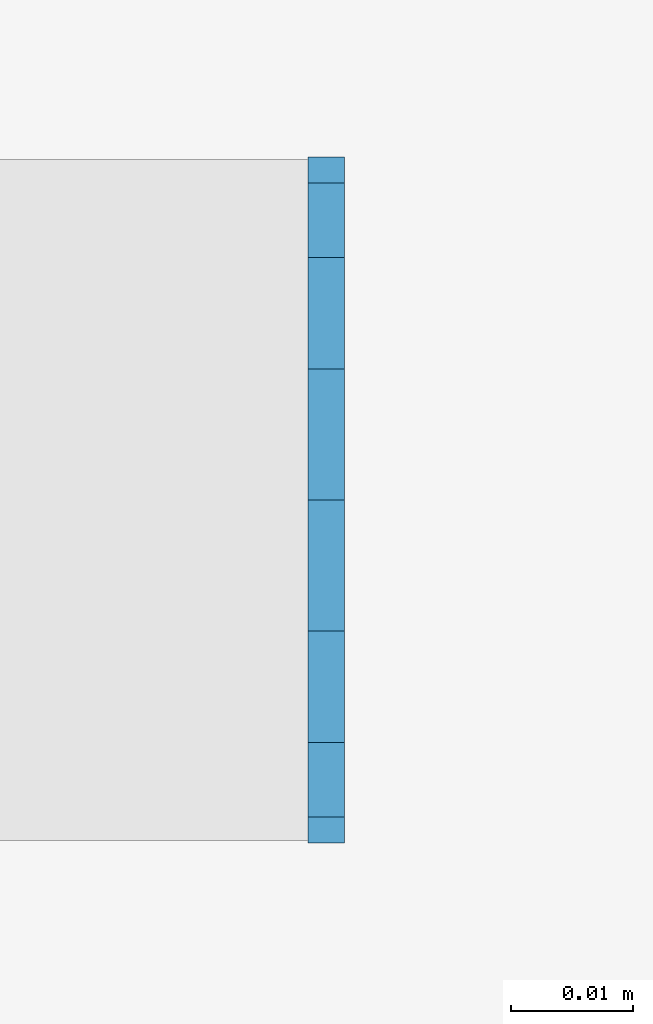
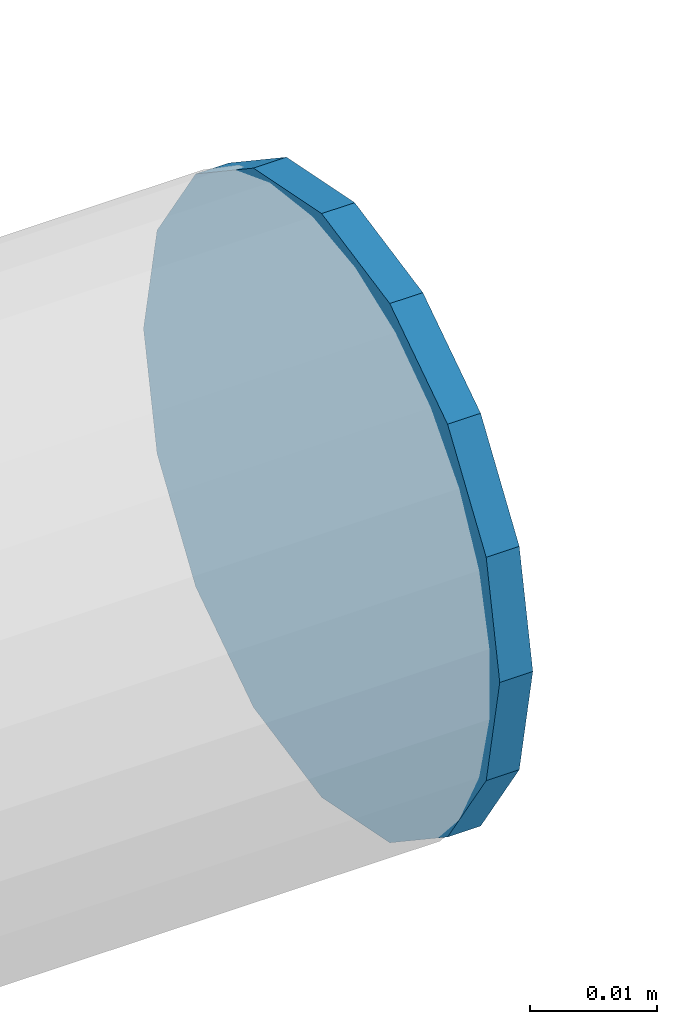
# One storey, part 52 of 230: 1 beam.
"""IFC4X3_ADD2 building model written with IfcOpenShell, lengths in millimetres."""

from ifc_helpers import new_model, si_unit, direction, frame, origin_with_axes, place, context, subcontext, project, spatial, indexed_curve, outline, extrude, material, element, save


model = new_model("IFC4X3_ADD2")

# Units and contexts
model_context = context("Model", 3, precision=1e-05, world=origin_with_axes(), true_north=direction((0.0, 1.0)))
body_context = subcontext(model_context, "Body", "Model", "MODEL_VIEW")
ifc_project = project(units=[si_unit("LENGTHUNIT", "METRE", prefix="MILLI"), si_unit("AREAUNIT", "SQUARE_METRE"), si_unit("VOLUMEUNIT", "CUBIC_METRE"), si_unit("PLANEANGLEUNIT", "RADIAN"), si_unit("TIMEUNIT", "SECOND"), si_unit("MASSUNIT", "GRAM")], contexts=[model_context])

# Site, building, storey
site_placement = place(None, origin_with_axes())
site = spatial("IfcSite", under=ifc_project, at=site_placement, Name="Site", CompositionType="ELEMENT")
building_placement = place(site_placement, origin_with_axes())
building = spatial("IfcBuilding", under=site, at=building_placement, Name="IFC Building Story")
storey_placement = place(building_placement, origin_with_axes())
storey = spatial("IfcBuildingStorey", under=building, at=storey_placement, Name="ETAGE 00 (0)", Elevation=0.0)

# Beam
ifc_material = material(Name="STEEL/Accessory 22919")
beam_placement = place(storey_placement, frame((5156.189348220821, 17649.9997253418, 1190.0), z_axis=(-1.0, 0.0, 0.0), x_axis=(0.0, 0.5555702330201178, 0.8314696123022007)))
element("IfcBeam", 1, at=beam_placement, inside=storey, material=ifc_material, Name="TA4", ObjectType="D56", context=body_context, shape_type="SweptSolid", body=[
    extrude(outline(indexed_curve([(23.28114914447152, 15.55596652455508), (27.46198785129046, 5.462529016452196), (27.46198785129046, -5.462529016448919), (23.28114914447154, -15.55596652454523), (15.55596652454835, -23.28114914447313), (5.462529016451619, -27.46198785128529), (-5.462529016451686, -27.46198785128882), (-15.55596652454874, -23.28114914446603), (-23.2811491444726, -15.55596652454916), (-27.46198785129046, -5.462529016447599), (-27.46198785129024, 5.462529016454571), (-23.28114914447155, 15.55596652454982), (-15.55596652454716, 23.28114914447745), (-5.462529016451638, 27.46198785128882), (5.462529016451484, 27.46198785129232), (15.55596652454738, 23.28114914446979), (23.28114914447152, 15.55596652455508)])), origin_with_axes(), (0.0, 0.0, 1.0), 3.0),
])

save(model, "model.ifc")
